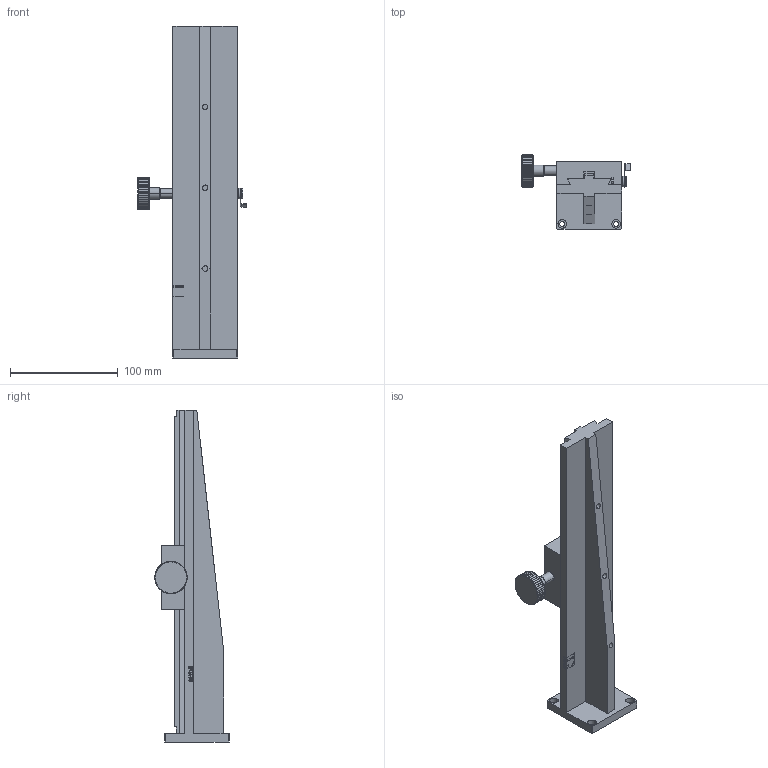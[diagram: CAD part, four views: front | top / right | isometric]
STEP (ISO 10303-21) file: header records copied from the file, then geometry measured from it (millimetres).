
FILE_DESCRIPTION (( 'STEP AP214' ), '1' );
FILE_NAME ('PT-DZ60-300（一体）.STEP', '2022-09-17T04:49:42', ( '' ), ( '' ), 'SwSTEP 2.0', 'SolidWorks 2017', '' );
FILE_SCHEMA (( 'AUTOMOTIVE_DESIGN' ));
Length unit declared in the file: millimetre
Products named in the file (7): LWX60-300-1 （新）; LWX40.0.4; LWX60.0.1; LWX60 賑輸; PT-DZ60-300（一体）; LWX40.0.3
Assembly tree (6 placements, depth 3):
  PT-DZ60-300（一体）
    LWX60-300-1 （新）
    LWX60 賑輸
      LWX60 賑輸
      LWX60.0.1
      LWX40.0.3
      LWX40.0.4
Bounding box: 100.5 x 69 x 308 mm (x, y, z)
Volume: 364927.5 mm3; surface area: 92869.2 mm2
Topology: 5 solids, 5 shells, 704 faces, 1928 edges, 1280 vertices
Faces by surface type: plane 327, cylinder 214, bspline 153, cone 10
Entity records: 33508 total; most frequent: CARTESIAN_POINT 12583, ORIENTED_EDGE 3856, DIRECTION 2874, EDGE_CURVE 1928, VERTEX_POINT 1280, VECTOR 1152, LINE 1152, AXIS2_PLACEMENT_3D 861
